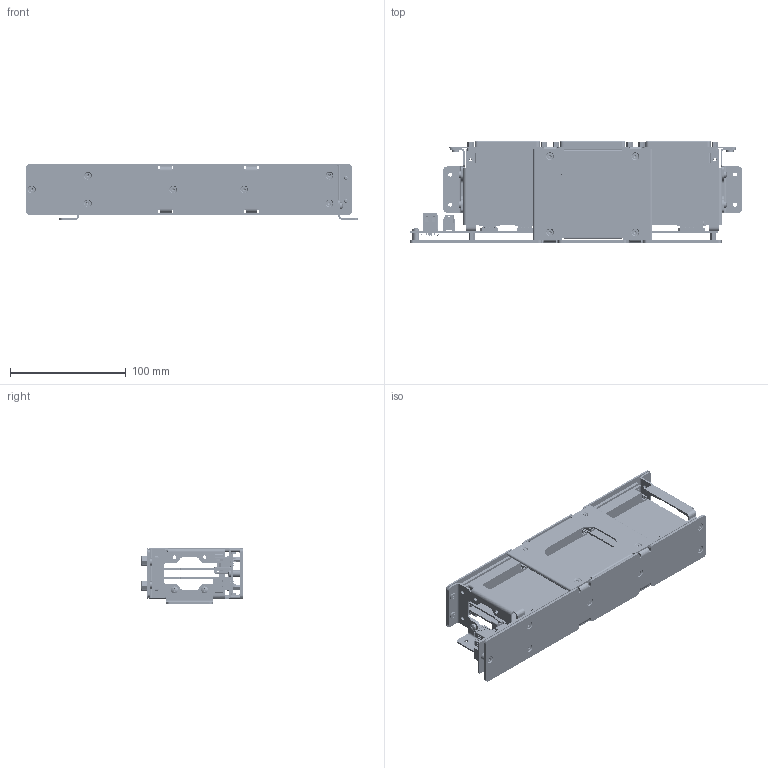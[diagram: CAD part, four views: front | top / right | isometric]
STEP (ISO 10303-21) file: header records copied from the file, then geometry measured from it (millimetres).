
FILE_DESCRIPTION((''),'2;1');
FILE_NAME('ASSY_TS_IN_FIXTURE_ASM','2022-06-23T09:18:19',('kleong'),(''),'CREO PARAMETRIC BY PTC INC, 2021063','CREO PARAMETRIC BY PTC INC, 2021063','');
FILE_SCHEMA(('AUTOMOTIVE_DESIGN { 1 0 10303 214 1 1 1 1 }'));
Products named in the file (49): PCB_TS_BACKPLANE_IN_FIXTURE; FS5_30_04_0_TH__SOCKET; C_304__30; FS5_30_04_0_L_DV_TH_K__TR_ASM; FS5_15_04_0_TH__SOCKET; C_304__15; FS5_15_04_0_L_DV_TH_K__TR_AF0_ASM; FS5_15_04_0_L_DV_TH_K__TR_AF1_ASM; FS5_15_04_0_L_DV_TH_K__TR_AF2_ASM; FS5_15_04_0_L_DV_TH_K__TR_AF3_ASM; FS5_15_04_0_L_DV_TH_K__TR_AF4_ASM; 1722991204; CONN_USB_A_VT_SAMTEC_RETENTION; CONN_USB_VERTICAL_AMP_5788336-1; CCA_TS_BACKPLANE_IN_FIXTURE_ASM; PCB_TS_GPIO_MODULE; KYCON_K22X-C37P-N; FT5_30_01___TEMINAL; T_1M84_30__01; FT5_30_01_L_RA_K__TR_ASM; SO_187HEX_MF_440X01875_SS_0; CCA_TS_GPIO_MODULE_ASM; PCB_TS_IO_MODULE; FT5_15_01___TEMINAL; T_1M84_15__01; FT5_15_01_L_RA_K__TR_AF0_ASM; CCA_TS_IO_MODULE_AF0_ASM; FT5_15_01_L_RA_K__TR_AF1_ASM; CCA_TS_IO_MODULE_AF1_ASM; FT5_15_01_L_RA_K__TR_AF2_ASM; CCA_TS_IO_MODULE_AF2_ASM; FT5_15_01_L_RA_K__TR_AF3_ASM; CCA_TS_IO_MODULE_AF3_ASM; FT5_15_01_L_RA_K__TR_AF4_ASM; CCA_TS_IO_MODULE_AF4_ASM; TS_SIDE_PANEL_IN_FIXTURE; S-M3-2_ZI; ASSY_TS_SIDE_PANEL_IN_FIXTURE_ASM; TS_FRONT_PANEL_IN_FIXTURE; ASSY_TS_FRONT_PANEL_IN_FIXTURE_ASM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
Assembly tree (133 placements, depth 4):
  ASSY_TS_IN_FIXTURE_ASM
    CCA_TS_BACKPLANE_IN_FIXTURE_ASM
      PCB_TS_BACKPLANE_IN_FIXTURE
      FS5_30_04_0_L_DV_TH_K__TR_ASM
        FS5_30_04_0_TH__SOCKET
        C_304__30
      FS5_15_04_0_L_DV_TH_K__TR_AF0_ASM
        FS5_15_04_0_TH__SOCKET
        C_304__15
      FS5_15_04_0_L_DV_TH_K__TR_AF1_ASM
        FS5_15_04_0_TH__SOCKET
        C_304__15
      FS5_15_04_0_L_DV_TH_K__TR_AF2_ASM
        FS5_15_04_0_TH__SOCKET
        C_304__15
      FS5_15_04_0_L_DV_TH_K__TR_AF3_ASM
        FS5_15_04_0_TH__SOCKET
        C_304__15
      FS5_15_04_0_L_DV_TH_K__TR_AF4_ASM
        FS5_15_04_0_TH__SOCKET
        C_304__15
      1722991204  x2
      CONN_USB_A_VT_SAMTEC_RETENTION  x2
      CONN_USB_VERTICAL_AMP_5788336-1
    CCA_TS_GPIO_MODULE_ASM
      PCB_TS_GPIO_MODULE
      KYCON_K22X-C37P-N
      FT5_30_01_L_RA_K__TR_ASM
        FT5_30_01___TEMINAL
        T_1M84_30__01
      SO_187HEX_MF_440X01875_SS_0  x2
    CCA_TS_IO_MODULE_AF0_ASM
      PCB_TS_IO_MODULE
      KYCON_K22X-C37P-N
      SO_187HEX_MF_440X01875_SS_0  x2
      FT5_15_01_L_RA_K__TR_AF0_ASM
        FT5_15_01___TEMINAL
        T_1M84_15__01
    CCA_TS_IO_MODULE_AF1_ASM
      PCB_TS_IO_MODULE
      KYCON_K22X-C37P-N
      SO_187HEX_MF_440X01875_SS_0  x2
      FT5_15_01_L_RA_K__TR_AF1_ASM
        FT5_15_01___TEMINAL
        T_1M84_15__01
    CCA_TS_IO_MODULE_AF2_ASM
      PCB_TS_IO_MODULE
      KYCON_K22X-C37P-N
      SO_187HEX_MF_440X01875_SS_0  x2
      FT5_15_01_L_RA_K__TR_AF2_ASM
        FT5_15_01___TEMINAL
        T_1M84_15__01
    CCA_TS_IO_MODULE_AF3_ASM
      PCB_TS_IO_MODULE
      KYCON_K22X-C37P-N
      SO_187HEX_MF_440X01875_SS_0  x2
      FT5_15_01_L_RA_K__TR_AF3_ASM
        FT5_15_01___TEMINAL
        T_1M84_15__01
    CCA_TS_IO_MODULE_AF4_ASM
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Bounding box: 287.2 x 87.68 x 47.92 mm (x, y, z)
Volume: 195278.5 mm3; surface area: 245583.9 mm2
Topology: 119 solids, 120 shells, 23793 faces, 68399 edges, 44100 vertices
Faces by surface type: plane 17859, cylinder 4450, cone 530, sphere 466, extrusion 228, bspline 176, torus 84
Entity records: 386972 total; most frequent: CARTESIAN_POINT 60671, ORIENTED_EDGE 52898, DIRECTION 48215, EDGE_CURVE 26451, VECTOR 22453, LINE 22441, PRESENTATION_STYLE_ASSIGNMENT 22324, STYLED_ITEM 21998
